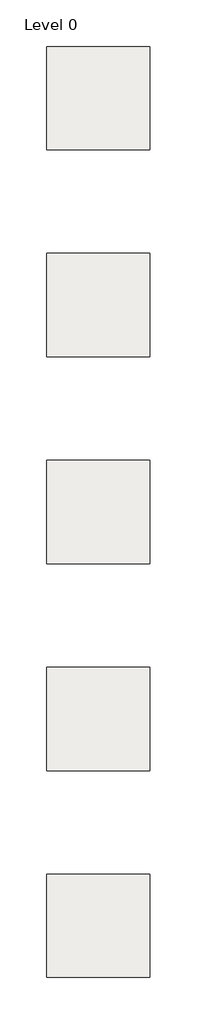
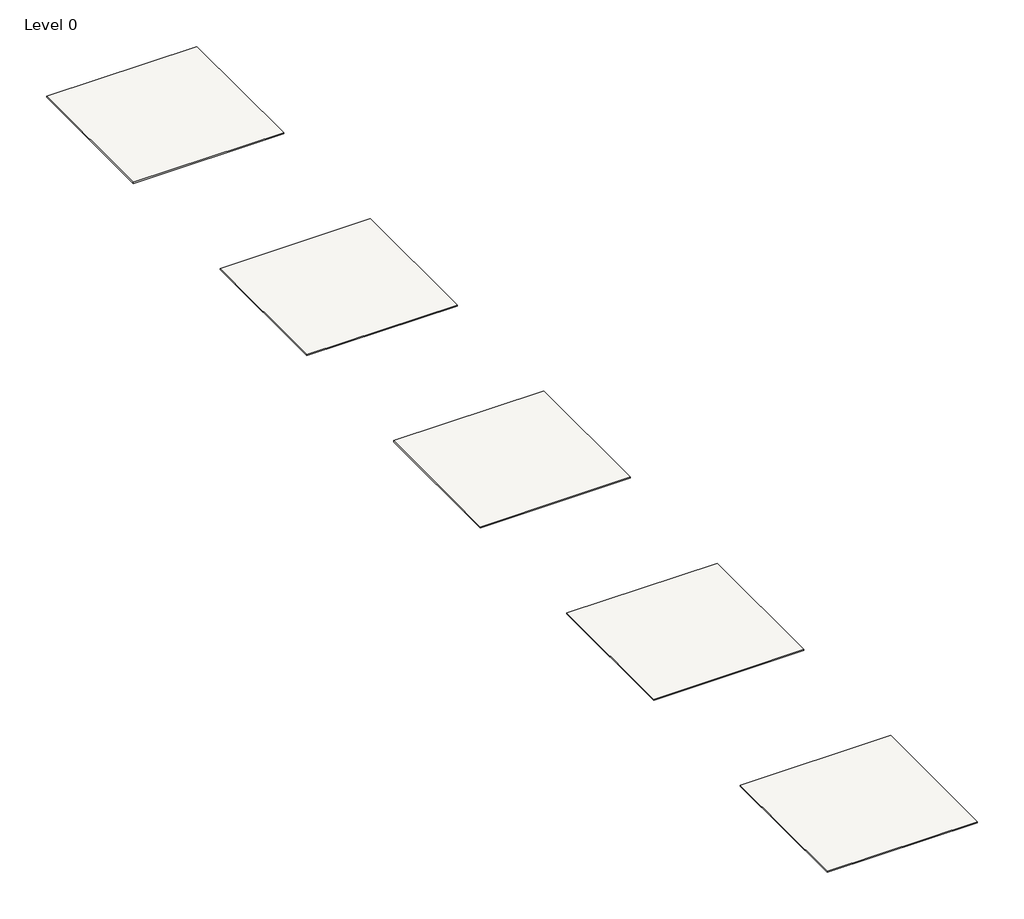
# One storey: 5 coverings.
"""IFC4 building model written with IfcOpenShell, lengths in millimetres."""

from ifc_helpers import new_model, si_unit, origin, origin_with_axes, place, context, project, spatial, polyline, outline, extrude, element, save

model = new_model("IFC4")

# Units and contexts
model_context = context("Model", 3, world=origin())
ifc_project = project(units=[si_unit("LENGTHUNIT", "METRE", prefix="MILLI")], contexts=[model_context])

# Site, building, storey
site = spatial("IfcSite", under=ifc_project)
building = spatial("IfcBuilding", under=site)
storey = spatial("IfcBuildingStorey", under=building, Name="Level 0", Elevation=0.0)

# Coverings
placement = place(None, origin())
element("IfcCovering", 1, ObjectType="NBS_Zentia_ModularSuspendedCeilingSystems_Prestige-NexusLayouts_NexusARRAY", at=placement, inside=storey, context=model_context, shape_type="SweptSolid", body=[
    extrude(outline(polyline([(-976.0, -4024.0), (-976.0, -1524.0), (1524.0, -1524.0), (1524.0, -4024.0), (-976.0, -4024.0)])), origin_with_axes(), (0.0, 0.0, 1.0), 19.0),
])
element("IfcCovering", 2, ObjectType="NBS_Zentia_ModularSuspendedCeilingSystems_Prestige-NexusLayouts_NexusBERG", at=placement, inside=storey, context=model_context, shape_type="SweptSolid", body=[
    extrude(outline(polyline([(-976.0, -9024.0), (-976.0, -6524.0), (1524.0, -6524.0), (1524.0, -9024.0), (-976.0, -9024.0)])), origin_with_axes(), (0.0, 0.0, 1.0), 19.0),
])
element("IfcCovering", 3, ObjectType="NBS_Zentia_ModularSuspendedCeilingSystems_Prestige-NexusLayouts_NexusEXCLAIM", at=placement, inside=storey, context=model_context, shape_type="SweptSolid", body=[
    extrude(outline(polyline([(-976.0, -14024.0), (-976.0, -11524.0), (1524.0, -11524.0), (1524.0, -14024.0), (-976.0, -14024.0)])), origin_with_axes(), (0.0, 0.0, 1.0), 19.0),
])
element("IfcCovering", 4, ObjectType="NBS_Zentia_ModularSuspendedCeilingSystems_Prestige-NexusLayouts_NexusPIXAL", at=placement, inside=storey, context=model_context, shape_type="SweptSolid", body=[
    extrude(outline(polyline([(-976.0, -19024.0), (-976.0, -16524.0), (1524.0, -16524.0), (1524.0, -19024.0), (-976.0, -19024.0)])), origin_with_axes(), (0.0, 0.0, 1.0), 19.0),
])
element("IfcCovering", 5, ObjectType="NBS_Zentia_ModularSuspendedCeilingSystems_Prestige-NexusLayouts_NexusSTEP", at=placement, inside=storey, context=model_context, shape_type="SweptSolid", body=[
    extrude(outline(polyline([(-976.0, -24024.0), (-976.0, -21524.0), (1524.0, -21524.0), (1524.0, -24024.0), (-976.0, -24024.0)])), origin_with_axes(), (0.0, 0.0, 1.0), 19.0),
])

save(model, "model.ifc")
